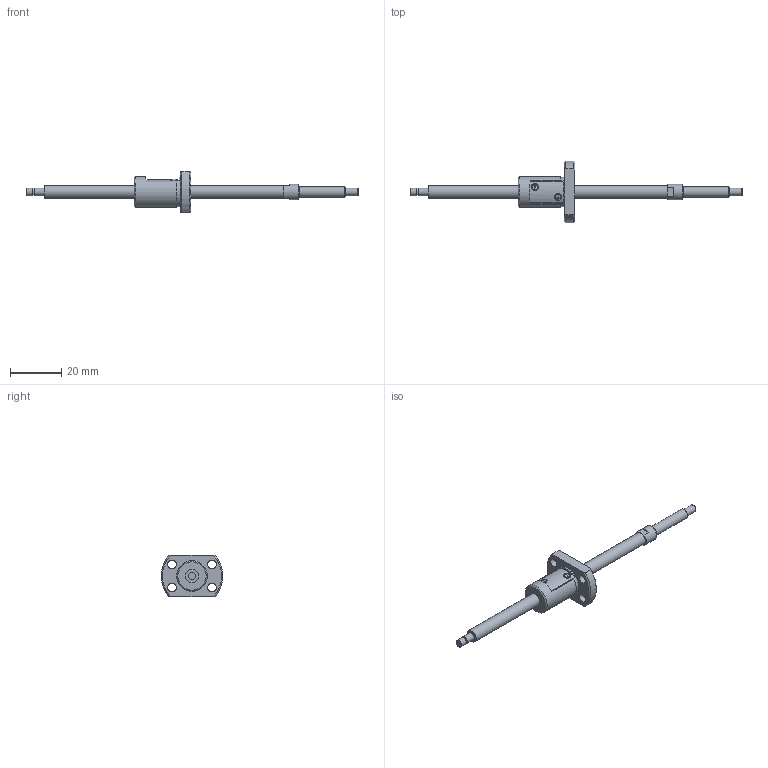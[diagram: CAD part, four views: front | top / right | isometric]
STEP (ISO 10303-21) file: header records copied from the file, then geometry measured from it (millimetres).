
FILE_DESCRIPTION(/* description */ ('STEP AP214'),/* implementation_level */ '2;1');
FILE_NAME(/* name */ 'SRT0504-089R129C7B0X(35Processing)',/* time_stamp */ '2026-08-04T17:52:03+02:00',/* author */ ('License CC BY-ND 4.0'),/* organization */ ('CADENAS'),/* preprocessor_version */ 'ST-DEVELOPER v20',/* originating_system */ 'PARTsolutions',/* authorisation */ ' ');
FILE_SCHEMA (('AUTOMOTIVE_DESIGN {1 0 10303 214 3 1 1}'));
Length unit declared in the file: millimetre
Products named in the file (3): SRT0504-089R129C7B0X(35Processing); SRT0504-89R155BCt7Processing9Shaft; SRT0504Nut
Assembly tree (2 placements, depth 2):
  SRT0504-089R129C7B0X(35Processing)
    SRT0504-89R155BCt7Processing9Shaft
    SRT0504Nut
Bounding box: 129 x 23.92 x 16 mm (x, y, z)
Volume: 5032.9 mm3; surface area: 4039.7 mm2
Topology: 2 solids, 2 shells, 65 faces, 155 edges, 102 vertices
Faces by surface type: plane 33, cylinder 19, cone 12, torus 1
Full cylindrical faces by diameter (mm): 1 x2, 2.7 x1, 3 x3, 3.4 x4, 4 x1, 5 x2, 6 x1, 11.5 x1, 12 x1
Entity records: 1783 total; most frequent: CARTESIAN_POINT 342, DIRECTION 296, ORIENTED_EDGE 234, AXIS2_PLACEMENT_3D 129, EDGE_CURVE 117, EDGE_LOOP 108, FACE_BOUND 108, VERTEX_POINT 89
